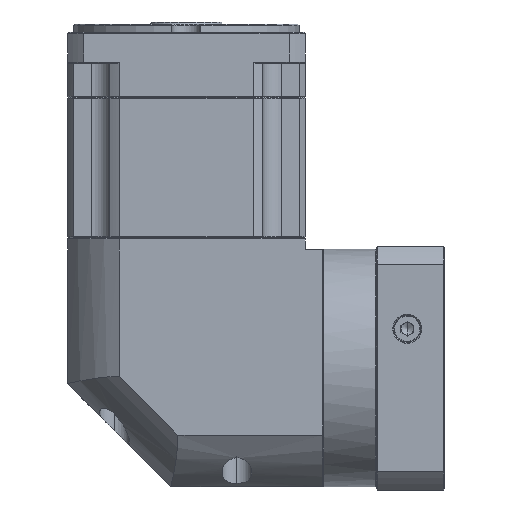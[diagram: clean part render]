
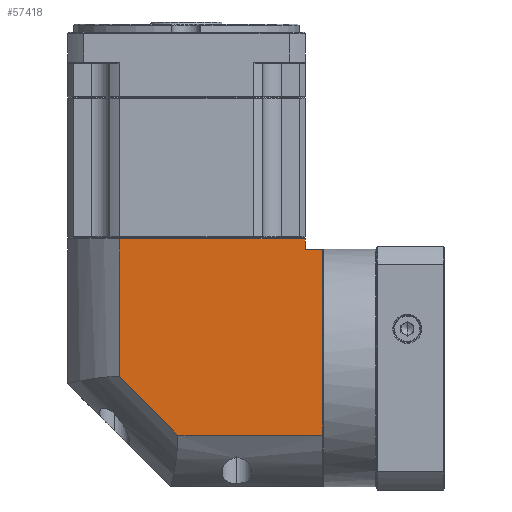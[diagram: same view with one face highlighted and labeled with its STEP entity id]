
A CAD part, left-side view. The second image highlights one B-rep face of the part: STEP entity #57418.
In plain terms, the highlighted planar face has unit normal (-1, 0, 0).
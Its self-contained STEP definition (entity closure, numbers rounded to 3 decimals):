
#5398 = VERTEX_POINT ( 'NONE', #21578 ) ;
#8552 = EDGE_LOOP ( 'NONE', ( #165466, #91134, #18522, #74433, #28479, #134643, #9561 ) ) ;
#9561 = ORIENTED_EDGE ( 'NONE', *, *, #150247, .F. ) ;
#9840 = VECTOR ( 'NONE', #83800, 1000. ) ;
#12136 = VECTOR ( 'NONE', #20807, 1000. ) ;
#12851 = CARTESIAN_POINT ( 'NONE',  ( -253.559, -77.622, 45.173 ) ) ;
#12897 = LINE ( 'NONE', #34149, #43264 ) ;
#13088 = CARTESIAN_POINT ( 'NONE',  ( -253.559, 37.378, 51.673 ) ) ;
#14233 = LINE ( 'NONE', #151487, #83241 ) ;
#14686 = LINE ( 'NONE', #157029, #83719 ) ;
#15692 = VERTEX_POINT ( 'NONE', #26675 ) ;
#18522 = ORIENTED_EDGE ( 'NONE', *, *, #70746, .F. ) ;
#20807 = DIRECTION ( 'NONE',  ( 0., 1., 0. ) ) ;
#21578 = CARTESIAN_POINT ( 'NONE',  ( -253.559, -86.022, 40.173 ) ) ;
#23347 = FACE_OUTER_BOUND ( 'NONE', #8552, .T. ) ;
#26111 = DIRECTION ( 'NONE',  ( 0., 1., 0. ) ) ;
#26675 = CARTESIAN_POINT ( 'NONE',  ( -253.559, 12.277, 45.173 ) ) ;
#28479 = ORIENTED_EDGE ( 'NONE', *, *, #38237, .T. ) ;
#34149 = CARTESIAN_POINT ( 'NONE',  ( -253.559, 37.378, 45.173 ) ) ;
#36003 = EDGE_CURVE ( 'NONE', #5398, #93772, #14686, .T. ) ;
#36784 = VERTEX_POINT ( 'NONE', #12851 ) ;
#38237 = EDGE_CURVE ( 'NONE', #5398, #102509, #159442, .T. ) ;
#39300 = CARTESIAN_POINT ( 'NONE',  ( -253.559, -77.622, 40.173 ) ) ;
#43264 = VECTOR ( 'NONE', #124855, 1000. ) ;
#44609 = CARTESIAN_POINT ( 'NONE',  ( -253.559, -16.061, -49.727 ) ) ;
#46616 = LINE ( 'NONE', #72432, #12136 ) ;
#54622 = EDGE_CURVE ( 'NONE', #156553, #94862, #113397, .T. ) ;
#57418 = ADVANCED_FACE ( 'NONE', ( #23347 ), #116335, .F. ) ;
#61215 = DIRECTION ( 'NONE',  ( 0., 0., 1. ) ) ;
#62999 = VECTOR ( 'NONE', #61215, 1000. ) ;
#70746 = EDGE_CURVE ( 'NONE', #93772, #156553, #46616, .T. ) ;
#72432 = CARTESIAN_POINT ( 'NONE',  ( -253.559, 37.378, -49.727 ) ) ;
#74433 = ORIENTED_EDGE ( 'NONE', *, *, #36003, .F. ) ;
#83241 = VECTOR ( 'NONE', #163981, 1000. ) ;
#83422 = CARTESIAN_POINT ( 'NONE',  ( -253.559, -86.022, -49.727 ) ) ;
#83719 = VECTOR ( 'NONE', #104220, 1000. ) ;
#83800 = DIRECTION ( 'NONE',  ( 0., 0.707, 0.707 ) ) ;
#90086 = CARTESIAN_POINT ( 'NONE',  ( -253.559, 12.277, -21.389 ) ) ;
#90393 = VECTOR ( 'NONE', #165321, 1000. ) ;
#91134 = ORIENTED_EDGE ( 'NONE', *, *, #54622, .F. ) ;
#93772 = VERTEX_POINT ( 'NONE', #83422 ) ;
#94862 = VERTEX_POINT ( 'NONE', #90086 ) ;
#102509 = VERTEX_POINT ( 'NONE', #39300 ) ;
#103751 = CARTESIAN_POINT ( 'NONE',  ( -253.559, -16.061, -49.727 ) ) ;
#103811 = DIRECTION ( 'NONE',  ( 1., 0., 0. ) ) ;
#104220 = DIRECTION ( 'NONE',  ( 0., 0., -1. ) ) ;
#105609 = EDGE_CURVE ( 'NONE', #94862, #15692, #14233, .T. ) ;
#107168 = AXIS2_PLACEMENT_3D ( 'NONE', #13088, #103811, #26111 ) ;
#113397 = LINE ( 'NONE', #44609, #9840 ) ;
#116335 = PLANE ( 'NONE',  #107168 ) ;
#124855 = DIRECTION ( 'NONE',  ( 0., -1., 0. ) ) ;
#125846 = CARTESIAN_POINT ( 'NONE',  ( -253.559, -77.622, -74.827 ) ) ;
#126628 = CARTESIAN_POINT ( 'NONE',  ( -253.559, -77.622, 40.173 ) ) ;
#131973 = LINE ( 'NONE', #125846, #62999 ) ;
#134643 = ORIENTED_EDGE ( 'NONE', *, *, #156368, .T. ) ;
#150247 = EDGE_CURVE ( 'NONE', #15692, #36784, #12897, .T. ) ;
#151487 = CARTESIAN_POINT ( 'NONE',  ( -253.559, 12.277, 51.673 ) ) ;
#156368 = EDGE_CURVE ( 'NONE', #102509, #36784, #131973, .T. ) ;
#156553 = VERTEX_POINT ( 'NONE', #103751 ) ;
#157029 = CARTESIAN_POINT ( 'NONE',  ( -253.559, -86.022, 51.673 ) ) ;
#159442 = LINE ( 'NONE', #126628, #90393 ) ;
#163981 = DIRECTION ( 'NONE',  ( 0., 0., 1. ) ) ;
#165321 = DIRECTION ( 'NONE',  ( 0., 1., 0. ) ) ;
#165466 = ORIENTED_EDGE ( 'NONE', *, *, #105609, .F. ) ;
